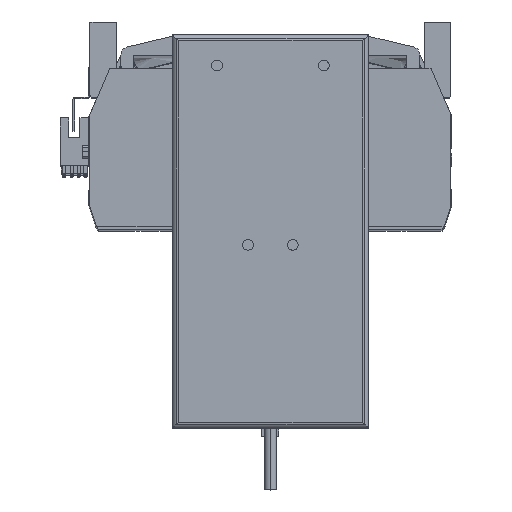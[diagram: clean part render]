
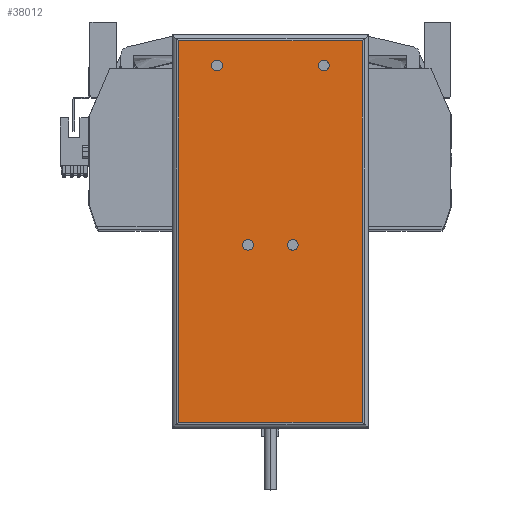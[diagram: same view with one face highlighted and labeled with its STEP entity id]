
A CAD part, top view. The second image highlights one B-rep face of the part: STEP entity #38012.
In plain terms, the highlighted planar face has unit normal (0, 0, 1) as drawn and (0, 0, -1) by its records, which use the part's own axes.
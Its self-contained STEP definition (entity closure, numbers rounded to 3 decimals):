
#192 = EDGE_CURVE ( 'NONE', #19646, #39028, #22725, .T. ) ;
#534 = FACE_BOUND ( 'NONE', #16861, .T. ) ;
#576 = CARTESIAN_POINT ( 'NONE',  ( -10.5, -6.25, 0. ) ) ;
#615 = CARTESIAN_POINT ( 'NONE',  ( 43., -92.25, 0. ) ) ;
#1804 = CARTESIAN_POINT ( 'NONE',  ( 22.5, 77.75, 0. ) ) ;
#1814 = DIRECTION ( 'NONE',  ( 0., 0., -1. ) ) ;
#2329 = CARTESIAN_POINT ( 'NONE',  ( 10.5, -6.25, 0. ) ) ;
#2352 = CARTESIAN_POINT ( 'NONE',  ( -46., 89.25, 0. ) ) ;
#2520 = EDGE_CURVE ( 'NONE', #10587, #32179, #15626, .T. ) ;
#3195 = ORIENTED_EDGE ( 'NONE', *, *, #16715, .F. ) ;
#3879 = AXIS2_PLACEMENT_3D ( 'NONE', #576, #26542, #19165 ) ;
#4078 = ORIENTED_EDGE ( 'NONE', *, *, #192, .T. ) ;
#4096 = DIRECTION ( 'NONE',  ( -1., 0., 0. ) ) ;
#6379 = ORIENTED_EDGE ( 'NONE', *, *, #45228, .T. ) ;
#6387 = FACE_OUTER_BOUND ( 'NONE', #44447, .T. ) ;
#7181 = VECTOR ( 'NONE', #16228, 1000. ) ;
#7950 = AXIS2_PLACEMENT_3D ( 'NONE', #2329, #13154, #42694 ) ;
#8350 = CARTESIAN_POINT ( 'NONE',  ( 25., 77.75, 0. ) ) ;
#8667 = DIRECTION ( 'NONE',  ( -1., 0., 0. ) ) ;
#9129 = EDGE_CURVE ( 'NONE', #23087, #9964, #37289, .T. ) ;
#9197 = AXIS2_PLACEMENT_3D ( 'NONE', #8350, #30853, #30697 ) ;
#9415 = CARTESIAN_POINT ( 'NONE',  ( 27.5, 77.75, 0. ) ) ;
#9838 = FACE_BOUND ( 'NONE', #18189, .T. ) ;
#9964 = VERTEX_POINT ( 'NONE', #9415 ) ;
#10430 = ORIENTED_EDGE ( 'NONE', *, *, #2520, .T. ) ;
#10587 = VERTEX_POINT ( 'NONE', #28613 ) ;
#10866 = EDGE_LOOP ( 'NONE', ( #27009, #22754 ) ) ;
#10965 = ORIENTED_EDGE ( 'NONE', *, *, #47065, .F. ) ;
#10994 = VECTOR ( 'NONE', #15915, 1000. ) ;
#11430 = AXIS2_PLACEMENT_3D ( 'NONE', #25223, #18330, #21849 ) ;
#12557 = DIRECTION ( 'NONE',  ( 0., 0., 1. ) ) ;
#12585 = EDGE_CURVE ( 'NONE', #32179, #19646, #29590, .T. ) ;
#12926 = VECTOR ( 'NONE', #29482, 1000. ) ;
#13154 = DIRECTION ( 'NONE',  ( 0., 0., -1. ) ) ;
#13506 = VECTOR ( 'NONE', #39342, 1000. ) ;
#13538 = AXIS2_PLACEMENT_3D ( 'NONE', #27315, #45433, #19936 ) ;
#15626 = LINE ( 'NONE', #31860, #10994 ) ;
#15641 = AXIS2_PLACEMENT_3D ( 'NONE', #44859, #12557, #41949 ) ;
#15915 = DIRECTION ( 'NONE',  ( 0., 1., 0. ) ) ;
#16228 = DIRECTION ( 'NONE',  ( -1., 0., 0. ) ) ;
#16715 = EDGE_CURVE ( 'NONE', #44315, #29868, #28729, .T. ) ;
#16861 = EDGE_LOOP ( 'NONE', ( #28846, #3195 ) ) ;
#17812 = CARTESIAN_POINT ( 'NONE',  ( -27.5, 77.75, 0. ) ) ;
#18010 = AXIS2_PLACEMENT_3D ( 'NONE', #27451, #1814, #4096 ) ;
#18189 = EDGE_LOOP ( 'NONE', ( #22490, #10965 ) ) ;
#18330 = DIRECTION ( 'NONE',  ( 0., 0., -1. ) ) ;
#19165 = DIRECTION ( 'NONE',  ( -1., 0., 0. ) ) ;
#19635 = FACE_BOUND ( 'NONE', #10866, .T. ) ;
#19646 = VERTEX_POINT ( 'NONE', #30273 ) ;
#19936 = DIRECTION ( 'NONE',  ( -1., 0., 0. ) ) ;
#21015 = LINE ( 'NONE', #23452, #7181 ) ;
#21833 = EDGE_CURVE ( 'NONE', #28303, #36146, #46034, .T. ) ;
#21849 = DIRECTION ( 'NONE',  ( -1., 0., 0. ) ) ;
#22230 = CIRCLE ( 'NONE', #9197, 2.5 ) ;
#22490 = ORIENTED_EDGE ( 'NONE', *, *, #39385, .F. ) ;
#22725 = LINE ( 'NONE', #615, #12926 ) ;
#22754 = ORIENTED_EDGE ( 'NONE', *, *, #37204, .F. ) ;
#23087 = VERTEX_POINT ( 'NONE', #1804 ) ;
#23089 = CIRCLE ( 'NONE', #25499, 2.5 ) ;
#23452 = CARTESIAN_POINT ( 'NONE',  ( -46., -89.25, 0. ) ) ;
#23477 = DIRECTION ( 'NONE',  ( -1., 0., 0. ) ) ;
#23818 = EDGE_CURVE ( 'NONE', #9964, #23087, #22230, .T. ) ;
#25223 = CARTESIAN_POINT ( 'NONE',  ( -10.5, -6.25, 0. ) ) ;
#25499 = AXIS2_PLACEMENT_3D ( 'NONE', #27663, #38365, #23477 ) ;
#25969 = CIRCLE ( 'NONE', #46646, 2.5 ) ;
#26542 = DIRECTION ( 'NONE',  ( 0., 0., -1. ) ) ;
#27009 = ORIENTED_EDGE ( 'NONE', *, *, #21833, .F. ) ;
#27315 = CARTESIAN_POINT ( 'NONE',  ( -25., 77.75, 0. ) ) ;
#27451 = CARTESIAN_POINT ( 'NONE',  ( 25., 77.75, 0. ) ) ;
#27663 = CARTESIAN_POINT ( 'NONE',  ( 10.5, -6.25, 0. ) ) ;
#27892 = EDGE_CURVE ( 'NONE', #29868, #44315, #30352, .T. ) ;
#28302 = ORIENTED_EDGE ( 'NONE', *, *, #12585, .T. ) ;
#28303 = VERTEX_POINT ( 'NONE', #36966 ) ;
#28523 = ORIENTED_EDGE ( 'NONE', *, *, #9129, .F. ) ;
#28613 = CARTESIAN_POINT ( 'NONE',  ( -43., -89.25, 0. ) ) ;
#28664 = ORIENTED_EDGE ( 'NONE', *, *, #23818, .F. ) ;
#28729 = CIRCLE ( 'NONE', #11430, 2.5 ) ;
#28846 = ORIENTED_EDGE ( 'NONE', *, *, #27892, .F. ) ;
#29482 = DIRECTION ( 'NONE',  ( 0., -1., 0. ) ) ;
#29590 = LINE ( 'NONE', #2352, #13506 ) ;
#29868 = VERTEX_POINT ( 'NONE', #37611 ) ;
#29966 = CARTESIAN_POINT ( 'NONE',  ( -22.5, 77.75, 0. ) ) ;
#30273 = CARTESIAN_POINT ( 'NONE',  ( 43., 89.25, 0. ) ) ;
#30352 = CIRCLE ( 'NONE', #3879, 2.5 ) ;
#30697 = DIRECTION ( 'NONE',  ( -1., 0., 0. ) ) ;
#30853 = DIRECTION ( 'NONE',  ( 0., 0., -1. ) ) ;
#31860 = CARTESIAN_POINT ( 'NONE',  ( -43., -92.25, 0. ) ) ;
#32179 = VERTEX_POINT ( 'NONE', #38422 ) ;
#34545 = CARTESIAN_POINT ( 'NONE',  ( -25., 77.75, 0. ) ) ;
#34709 = DIRECTION ( 'NONE',  ( 0., 0., -1. ) ) ;
#35071 = CARTESIAN_POINT ( 'NONE',  ( 43., -89.25, 0. ) ) ;
#35467 = VERTEX_POINT ( 'NONE', #17812 ) ;
#36146 = VERTEX_POINT ( 'NONE', #37208 ) ;
#36966 = CARTESIAN_POINT ( 'NONE',  ( 8., -6.25, 0. ) ) ;
#37204 = EDGE_CURVE ( 'NONE', #36146, #28303, #23089, .T. ) ;
#37208 = CARTESIAN_POINT ( 'NONE',  ( 13., -6.25, 0. ) ) ;
#37289 = CIRCLE ( 'NONE', #18010, 2.5 ) ;
#37472 = PLANE ( 'NONE',  #15641 ) ;
#37611 = CARTESIAN_POINT ( 'NONE',  ( -13., -6.25, 0. ) ) ;
#37992 = FACE_BOUND ( 'NONE', #45290, .T. ) ;
#38012 = ADVANCED_FACE ( 'NONE', ( #6387, #534, #19635, #9838, #37992 ), #37472, .F. ) ;
#38365 = DIRECTION ( 'NONE',  ( 0., 0., -1. ) ) ;
#38422 = CARTESIAN_POINT ( 'NONE',  ( -43., 89.25, 0. ) ) ;
#39028 = VERTEX_POINT ( 'NONE', #35071 ) ;
#39342 = DIRECTION ( 'NONE',  ( 1., 0., 0. ) ) ;
#39385 = EDGE_CURVE ( 'NONE', #35467, #40035, #39606, .T. ) ;
#39606 = CIRCLE ( 'NONE', #13538, 2.5 ) ;
#40035 = VERTEX_POINT ( 'NONE', #29966 ) ;
#41949 = DIRECTION ( 'NONE',  ( 1., 0., 0. ) ) ;
#42694 = DIRECTION ( 'NONE',  ( -1., 0., 0. ) ) ;
#44315 = VERTEX_POINT ( 'NONE', #45263 ) ;
#44447 = EDGE_LOOP ( 'NONE', ( #4078, #6379, #10430, #28302 ) ) ;
#44859 = CARTESIAN_POINT ( 'NONE',  ( -46., -92.25, 0. ) ) ;
#45228 = EDGE_CURVE ( 'NONE', #39028, #10587, #21015, .T. ) ;
#45263 = CARTESIAN_POINT ( 'NONE',  ( -8., -6.25, 0. ) ) ;
#45290 = EDGE_LOOP ( 'NONE', ( #28523, #28664 ) ) ;
#45433 = DIRECTION ( 'NONE',  ( 0., 0., -1. ) ) ;
#46034 = CIRCLE ( 'NONE', #7950, 2.5 ) ;
#46646 = AXIS2_PLACEMENT_3D ( 'NONE', #34545, #34709, #8667 ) ;
#47065 = EDGE_CURVE ( 'NONE', #40035, #35467, #25969, .T. ) ;
